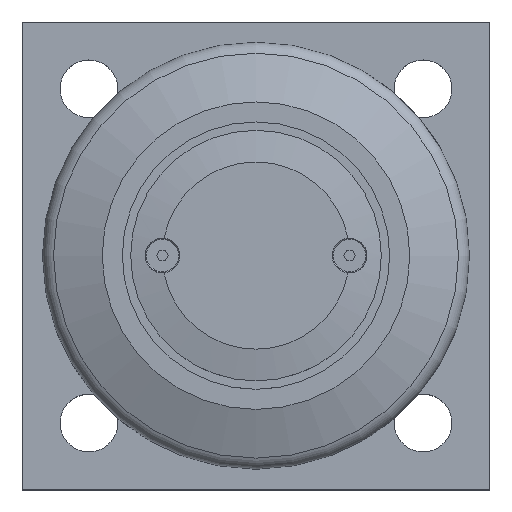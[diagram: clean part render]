
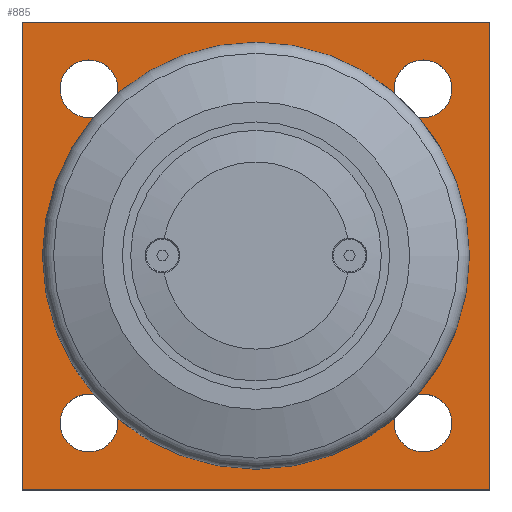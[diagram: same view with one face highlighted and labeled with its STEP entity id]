
A CAD part, top view. The second image highlights one B-rep face of the part: STEP entity #885.
In plain terms, the highlighted planar face has unit normal (0, 0, 1).
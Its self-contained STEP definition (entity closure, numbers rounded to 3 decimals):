
#45=FACE_BOUND('',#196,.T.);
#46=FACE_BOUND('',#197,.T.);
#47=FACE_BOUND('',#198,.T.);
#48=FACE_BOUND('',#199,.T.);
#49=FACE_BOUND('',#200,.T.);
#98=CIRCLE('',#995,39.5);
#99=CIRCLE('',#997,8.647);
#100=CIRCLE('',#998,8.647);
#101=CIRCLE('',#999,8.647);
#102=CIRCLE('',#1000,8.647);
#103=CIRCLE('',#1001,8.647);
#104=CIRCLE('',#1002,8.647);
#105=CIRCLE('',#1003,8.647);
#106=CIRCLE('',#1004,8.647);
#142=FACE_OUTER_BOUND('',#195,.T.);
#195=EDGE_LOOP('',(#728,#729,#730,#731));
#196=EDGE_LOOP('',(#732));
#197=EDGE_LOOP('',(#733,#734));
#198=EDGE_LOOP('',(#735,#736));
#199=EDGE_LOOP('',(#737,#738));
#200=EDGE_LOOP('',(#739,#740));
#255=LINE('',#1540,#321);
#256=LINE('',#1542,#322);
#257=LINE('',#1544,#323);
#258=LINE('',#1545,#324);
#321=VECTOR('',#1208,10.);
#322=VECTOR('',#1209,10.);
#323=VECTOR('',#1210,10.);
#324=VECTOR('',#1211,10.);
#410=VERTEX_POINT('',#1534);
#411=VERTEX_POINT('',#1538);
#412=VERTEX_POINT('',#1539);
#413=VERTEX_POINT('',#1541);
#414=VERTEX_POINT('',#1543);
#415=VERTEX_POINT('',#1546);
#416=VERTEX_POINT('',#1547);
#417=VERTEX_POINT('',#1550);
#418=VERTEX_POINT('',#1551);
#419=VERTEX_POINT('',#1554);
#420=VERTEX_POINT('',#1555);
#421=VERTEX_POINT('',#1558);
#422=VERTEX_POINT('',#1559);
#523=EDGE_CURVE('',#410,#410,#98,.T.);
#524=EDGE_CURVE('',#411,#412,#255,.T.);
#525=EDGE_CURVE('',#413,#411,#256,.T.);
#526=EDGE_CURVE('',#414,#413,#257,.T.);
#527=EDGE_CURVE('',#412,#414,#258,.T.);
#528=EDGE_CURVE('',#415,#416,#99,.T.);
#529=EDGE_CURVE('',#416,#415,#100,.T.);
#530=EDGE_CURVE('',#417,#418,#101,.T.);
#531=EDGE_CURVE('',#418,#417,#102,.T.);
#532=EDGE_CURVE('',#419,#420,#103,.T.);
#533=EDGE_CURVE('',#420,#419,#104,.T.);
#534=EDGE_CURVE('',#421,#422,#105,.T.);
#535=EDGE_CURVE('',#422,#421,#106,.T.);
#728=ORIENTED_EDGE('',*,*,#524,.F.);
#729=ORIENTED_EDGE('',*,*,#525,.F.);
#730=ORIENTED_EDGE('',*,*,#526,.F.);
#731=ORIENTED_EDGE('',*,*,#527,.F.);
#732=ORIENTED_EDGE('',*,*,#523,.T.);
#733=ORIENTED_EDGE('',*,*,#528,.T.);
#734=ORIENTED_EDGE('',*,*,#529,.T.);
#735=ORIENTED_EDGE('',*,*,#530,.T.);
#736=ORIENTED_EDGE('',*,*,#531,.T.);
#737=ORIENTED_EDGE('',*,*,#532,.T.);
#738=ORIENTED_EDGE('',*,*,#533,.T.);
#739=ORIENTED_EDGE('',*,*,#534,.T.);
#740=ORIENTED_EDGE('',*,*,#535,.T.);
#842=PLANE('',#996);
#885=ADVANCED_FACE('',(#142,#45,#46,#47,#48,#49),#842,.T.);
#995=AXIS2_PLACEMENT_3D('',#1536,#1204,#1205);
#996=AXIS2_PLACEMENT_3D('',#1537,#1206,#1207);
#997=AXIS2_PLACEMENT_3D('',#1548,#1212,#1213);
#998=AXIS2_PLACEMENT_3D('',#1549,#1214,#1215);
#999=AXIS2_PLACEMENT_3D('',#1552,#1216,#1217);
#1000=AXIS2_PLACEMENT_3D('',#1553,#1218,#1219);
#1001=AXIS2_PLACEMENT_3D('',#1556,#1220,#1221);
#1002=AXIS2_PLACEMENT_3D('',#1557,#1222,#1223);
#1003=AXIS2_PLACEMENT_3D('',#1560,#1224,#1225);
#1004=AXIS2_PLACEMENT_3D('',#1561,#1226,#1227);
#1204=DIRECTION('center_axis',(0.,0.,-1.));
#1205=DIRECTION('ref_axis',(-1.,0.,0.));
#1206=DIRECTION('center_axis',(0.,0.,1.));
#1207=DIRECTION('ref_axis',(1.,0.,0.));
#1208=DIRECTION('',(0.,1.,0.));
#1209=DIRECTION('',(-1.,0.,0.));
#1210=DIRECTION('',(0.,-1.,0.));
#1211=DIRECTION('',(1.,0.,0.));
#1212=DIRECTION('center_axis',(0.,0.,-1.));
#1213=DIRECTION('ref_axis',(1.,0.,0.));
#1214=DIRECTION('center_axis',(0.,0.,-1.));
#1215=DIRECTION('ref_axis',(1.,0.,0.));
#1216=DIRECTION('center_axis',(0.,0.,-1.));
#1217=DIRECTION('ref_axis',(1.,0.,0.));
#1218=DIRECTION('center_axis',(0.,0.,-1.));
#1219=DIRECTION('ref_axis',(1.,0.,0.));
#1220=DIRECTION('center_axis',(0.,0.,-1.));
#1221=DIRECTION('ref_axis',(1.,0.,0.));
#1222=DIRECTION('center_axis',(0.,0.,-1.));
#1223=DIRECTION('ref_axis',(1.,0.,0.));
#1224=DIRECTION('center_axis',(0.,0.,-1.));
#1225=DIRECTION('ref_axis',(1.,0.,0.));
#1226=DIRECTION('center_axis',(0.,0.,-1.));
#1227=DIRECTION('ref_axis',(1.,0.,0.));
#1534=CARTESIAN_POINT('',(109.5,70.,20.));
#1536=CARTESIAN_POINT('Origin',(70.,70.,20.));
#1537=CARTESIAN_POINT('Origin',(70.,70.,20.));
#1538=CARTESIAN_POINT('',(0.,0.,20.));
#1539=CARTESIAN_POINT('',(0.,140.,20.));
#1540=CARTESIAN_POINT('',(0.,140.,20.));
#1541=CARTESIAN_POINT('',(140.,0.,20.));
#1542=CARTESIAN_POINT('',(0.,0.,20.));
#1543=CARTESIAN_POINT('',(140.,140.,20.));
#1544=CARTESIAN_POINT('',(140.,0.,20.));
#1545=CARTESIAN_POINT('',(140.,140.,20.));
#1546=CARTESIAN_POINT('',(28.647,120.,20.));
#1547=CARTESIAN_POINT('',(11.353,120.,20.));
#1548=CARTESIAN_POINT('Origin',(20.,120.,20.));
#1549=CARTESIAN_POINT('Origin',(20.,120.,20.));
#1550=CARTESIAN_POINT('',(128.647,120.,20.));
#1551=CARTESIAN_POINT('',(111.353,120.,20.));
#1552=CARTESIAN_POINT('Origin',(120.,120.,20.));
#1553=CARTESIAN_POINT('Origin',(120.,120.,20.));
#1554=CARTESIAN_POINT('',(128.647,20.,20.));
#1555=CARTESIAN_POINT('',(111.353,20.,20.));
#1556=CARTESIAN_POINT('Origin',(120.,20.,20.));
#1557=CARTESIAN_POINT('Origin',(120.,20.,20.));
#1558=CARTESIAN_POINT('',(28.647,20.,20.));
#1559=CARTESIAN_POINT('',(11.353,20.,20.));
#1560=CARTESIAN_POINT('Origin',(20.,20.,20.));
#1561=CARTESIAN_POINT('Origin',(20.,20.,20.));
